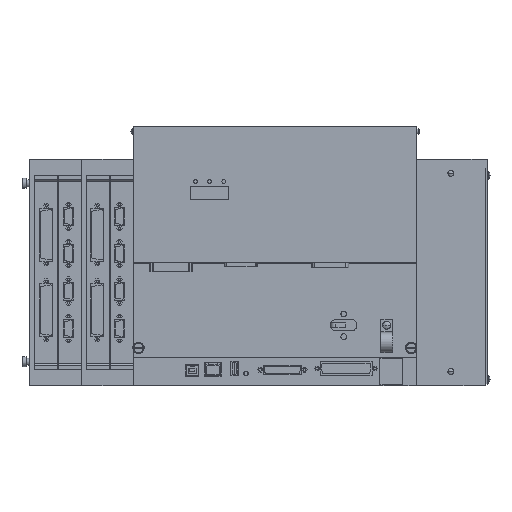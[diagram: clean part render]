
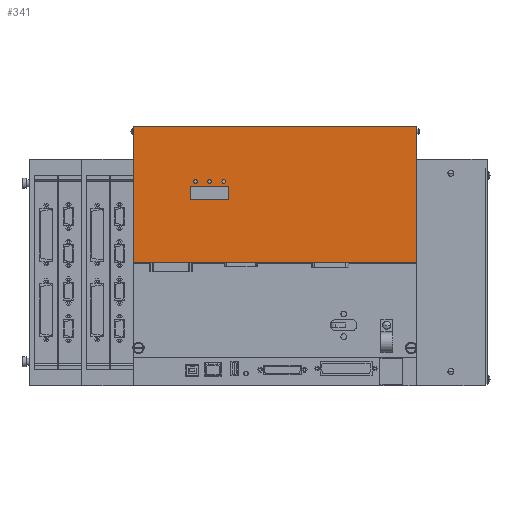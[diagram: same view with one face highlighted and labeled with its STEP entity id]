
A CAD part, top view. The second image highlights one B-rep face of the part: STEP entity #341.
In plain terms, the highlighted planar face has unit normal (0, 0, 1).
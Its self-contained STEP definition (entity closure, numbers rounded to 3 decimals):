
#341 = ADVANCED_FACE( '', ( #1609, #1610, #1611, #1612, #1613 ), #1614, .T. );
#1609 = FACE_OUTER_BOUND( '', #3927, .T. );
#1610 = FACE_BOUND( '', #3928, .T. );
#1611 = FACE_BOUND( '', #3929, .T. );
#1612 = FACE_BOUND( '', #3930, .T. );
#1613 = FACE_BOUND( '', #3931, .T. );
#1614 = PLANE( '', #3932 );
#3927 = EDGE_LOOP( '', ( #7111, #7112, #7113, #7114 ) );
#3928 = EDGE_LOOP( '', ( #7115, #7116 ) );
#3929 = EDGE_LOOP( '', ( #7117, #7118 ) );
#3930 = EDGE_LOOP( '', ( #7119, #7120 ) );
#3931 = EDGE_LOOP( '', ( #7121, #7122, #7123, #7124 ) );
#3932 = AXIS2_PLACEMENT_3D( '', #7125, #7126, #7127 );
#7111 = ORIENTED_EDGE( '', *, *, #14673, .F. );
#7112 = ORIENTED_EDGE( '', *, *, #14696, .T. );
#7113 = ORIENTED_EDGE( '', *, *, #14801, .T. );
#7114 = ORIENTED_EDGE( '', *, *, #14789, .F. );
#7115 = ORIENTED_EDGE( '', *, *, #14692, .F. );
#7116 = ORIENTED_EDGE( '', *, *, #14413, .F. );
#7117 = ORIENTED_EDGE( '', *, *, #14690, .F. );
#7118 = ORIENTED_EDGE( '', *, *, #14417, .F. );
#7119 = ORIENTED_EDGE( '', *, *, #14688, .F. );
#7120 = ORIENTED_EDGE( '', *, *, #14421, .F. );
#7121 = ORIENTED_EDGE( '', *, *, #14676, .F. );
#7122 = ORIENTED_EDGE( '', *, *, #14686, .F. );
#7123 = ORIENTED_EDGE( '', *, *, #14683, .F. );
#7124 = ORIENTED_EDGE( '', *, *, #14680, .F. );
#7125 = CARTESIAN_POINT( '', ( -1., 131., 40. ) );
#7126 = DIRECTION( '', ( 0., 0., 1. ) );
#7127 = DIRECTION( '', ( -1., 0., 0. ) );
#14413 = EDGE_CURVE( '', #17111, #17107, #17113, .T. );
#14417 = EDGE_CURVE( '', #17119, #17115, #17121, .T. );
#14421 = EDGE_CURVE( '', #17127, #17123, #17129, .T. );
#14673 = EDGE_CURVE( '', #17547, #17549, #17550, .T. );
#14676 = EDGE_CURVE( '', #17554, #17555, #17556, .T. );
#14680 = EDGE_CURVE( '', #17555, #17562, #17563, .T. );
#14683 = EDGE_CURVE( '', #17562, #17567, #17568, .T. );
#14686 = EDGE_CURVE( '', #17567, #17554, #17572, .T. );
#14688 = EDGE_CURVE( '', #17123, #17127, #17574, .T. );
#14690 = EDGE_CURVE( '', #17115, #17119, #17576, .T. );
#14692 = EDGE_CURVE( '', #17107, #17111, #17578, .T. );
#14696 = EDGE_CURVE( '', #17547, #17582, #17584, .T. );
#14789 = EDGE_CURVE( '', #17549, #17749, #17750, .T. );
#14801 = EDGE_CURVE( '', #17582, #17749, #17766, .T. );
#17107 = VERTEX_POINT( '', #21519 );
#17111 = VERTEX_POINT( '', #21524 );
#17113 = CIRCLE( '', #21527, 2. );
#17115 = VERTEX_POINT( '', #21529 );
#17119 = VERTEX_POINT( '', #21534 );
#17121 = CIRCLE( '', #21537, 2. );
#17123 = VERTEX_POINT( '', #21539 );
#17127 = VERTEX_POINT( '', #21544 );
#17129 = CIRCLE( '', #21547, 2. );
#17547 = VERTEX_POINT( '', #22127 );
#17549 = VERTEX_POINT( '', #22130 );
#17550 = LINE( '', #22131, #22132 );
#17554 = VERTEX_POINT( '', #22138 );
#17555 = VERTEX_POINT( '', #22139 );
#17556 = LINE( '', #22140, #22141 );
#17562 = VERTEX_POINT( '', #22150 );
#17563 = LINE( '', #22151, #22152 );
#17567 = VERTEX_POINT( '', #22158 );
#17568 = LINE( '', #22159, #22160 );
#17572 = LINE( '', #22166, #22167 );
#17574 = CIRCLE( '', #22170, 2. );
#17576 = CIRCLE( '', #22172, 2. );
#17578 = CIRCLE( '', #22174, 2. );
#17582 = VERTEX_POINT( '', #22179 );
#17584 = LINE( '', #22182, #22183 );
#17749 = VERTEX_POINT( '', #22424 );
#17750 = LINE( '', #22425, #22426 );
#17766 = LINE( '', #22451, #22452 );
#21519 = CARTESIAN_POINT( '', ( 97., 216.3, 40. ) );
#21524 = CARTESIAN_POINT( '', ( 93., 216.3, 40. ) );
#21527 = AXIS2_PLACEMENT_3D( '', #27917, #27918, #27919 );
#21529 = CARTESIAN_POINT( '', ( 82., 216.3, 40. ) );
#21534 = CARTESIAN_POINT( '', ( 78., 216.3, 40. ) );
#21537 = AXIS2_PLACEMENT_3D( '', #27925, #27926, #27927 );
#21539 = CARTESIAN_POINT( '', ( 67., 216.3, 40. ) );
#21544 = CARTESIAN_POINT( '', ( 63., 216.3, 40. ) );
#21547 = AXIS2_PLACEMENT_3D( '', #27933, #27934, #27935 );
#22127 = CARTESIAN_POINT( '', ( -1., 130., 40. ) );
#22130 = CARTESIAN_POINT( '', ( -1., 275., 40. ) );
#22131 = CARTESIAN_POINT( '', ( -1., 275., 40. ) );
#22132 = VECTOR( '', #28483, 1. );
#22138 = CARTESIAN_POINT( '', ( 59.5, 197.3, 40. ) );
#22139 = CARTESIAN_POINT( '', ( 100.1, 197.3, 40. ) );
#22140 = CARTESIAN_POINT( '', ( 59.5, 197.3, 40. ) );
#22141 = VECTOR( '', #28486, 1. );
#22150 = CARTESIAN_POINT( '', ( 100.1, 211.3, 40. ) );
#22151 = CARTESIAN_POINT( '', ( 100.1, 197.3, 40. ) );
#22152 = VECTOR( '', #28490, 1. );
#22158 = CARTESIAN_POINT( '', ( 59.5, 211.3, 40. ) );
#22159 = CARTESIAN_POINT( '', ( 100.1, 211.3, 40. ) );
#22160 = VECTOR( '', #28493, 1. );
#22166 = CARTESIAN_POINT( '', ( 59.5, 211.3, 40. ) );
#22167 = VECTOR( '', #28496, 1. );
#22170 = AXIS2_PLACEMENT_3D( '', #28498, #28499, #28500 );
#22172 = AXIS2_PLACEMENT_3D( '', #28504, #28505, #28506 );
#22174 = AXIS2_PLACEMENT_3D( '', #28510, #28511, #28512 );
#22179 = CARTESIAN_POINT( '', ( 299., 130., 40. ) );
#22182 = CARTESIAN_POINT( '', ( -1., 130., 40. ) );
#22183 = VECTOR( '', #28518, 1. );
#22424 = CARTESIAN_POINT( '', ( 299., 275., 40. ) );
#22425 = CARTESIAN_POINT( '', ( 299., 275., 40. ) );
#22426 = VECTOR( '', #28643, 1. );
#22451 = CARTESIAN_POINT( '', ( 299., 275., 40. ) );
#22452 = VECTOR( '', #28659, 1. );
#27917 = CARTESIAN_POINT( '', ( 95., 216.3, 40. ) );
#27918 = DIRECTION( '', ( 0., 0., 1. ) );
#27919 = DIRECTION( '', ( 1., 0., 0. ) );
#27925 = CARTESIAN_POINT( '', ( 80., 216.3, 40. ) );
#27926 = DIRECTION( '', ( 0., 0., 1. ) );
#27927 = DIRECTION( '', ( 1., 0., 0. ) );
#27933 = CARTESIAN_POINT( '', ( 65., 216.3, 40. ) );
#27934 = DIRECTION( '', ( 0., 0., 1. ) );
#27935 = DIRECTION( '', ( 1., 0., 0. ) );
#28483 = DIRECTION( '', ( 0., 1., 0. ) );
#28486 = DIRECTION( '', ( 1., 0., 0. ) );
#28490 = DIRECTION( '', ( 0., 1., 0. ) );
#28493 = DIRECTION( '', ( -1., 0., 0. ) );
#28496 = DIRECTION( '', ( 0., -1., 0. ) );
#28498 = CARTESIAN_POINT( '', ( 65., 216.3, 40. ) );
#28499 = DIRECTION( '', ( 0., 0., 1. ) );
#28500 = DIRECTION( '', ( 1., 0., 0. ) );
#28504 = CARTESIAN_POINT( '', ( 80., 216.3, 40. ) );
#28505 = DIRECTION( '', ( 0., 0., 1. ) );
#28506 = DIRECTION( '', ( 1., 0., 0. ) );
#28510 = CARTESIAN_POINT( '', ( 95., 216.3, 40. ) );
#28511 = DIRECTION( '', ( 0., 0., 1. ) );
#28512 = DIRECTION( '', ( 1., 0., 0. ) );
#28518 = DIRECTION( '', ( 1., 0., 0. ) );
#28643 = DIRECTION( '', ( 1., 0., 0. ) );
#28659 = DIRECTION( '', ( 0., 1., 0. ) );
